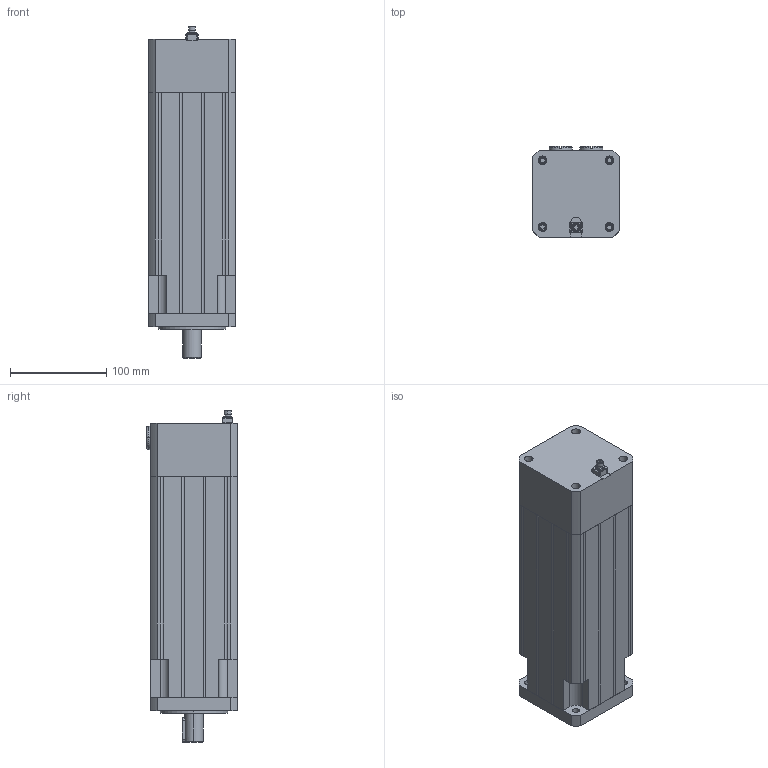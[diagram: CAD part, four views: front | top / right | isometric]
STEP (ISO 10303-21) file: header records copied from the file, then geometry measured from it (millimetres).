
FILE_DESCRIPTION (( 'STEP AP203' ), '1' );
FILE_NAME ('BTS090-10D2AC-EXD ZA.V1.STEP', '2023-03-08T02:47:24', ( 'Admin' ), ( '' ), 'SwSTEP 2.0', 'SolidWorks 2021', '' );
FILE_SCHEMA (( 'CONFIG_CONTROL_DESIGN' ));
Length unit declared in the file: millimetre
Products named in the file (1): BTS090-10D2AC-EXD  ZA.V1
Bounding box: 90 x 94 x 344.5 mm (x, y, z)
Volume: 2304957.9 mm3; surface area: 175899.4 mm2
Topology: 20 solids, 20 shells, 473 faces, 1113 edges, 712 vertices
Faces by surface type: plane 236, cylinder 178, torus 32, cone 27
Entity records: 13632 total; most frequent: DIRECTION 2453, CARTESIAN_POINT 2404, ORIENTED_EDGE 2178, EDGE_CURVE 1089, AXIS2_PLACEMENT_3D 901, VERTEX_POINT 712, VECTOR 651, LINE 651
